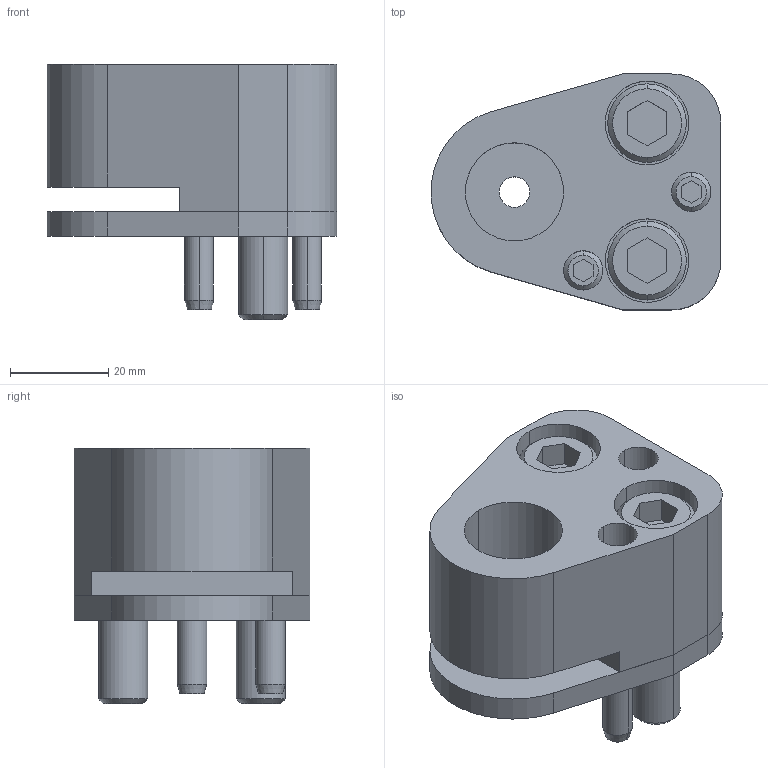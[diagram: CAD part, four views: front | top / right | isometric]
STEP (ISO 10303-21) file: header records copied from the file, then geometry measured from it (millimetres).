
FILE_DESCRIPTION(/* description */ (''),/* implementation_level */ '2;1');
FILE_NAME(/* name */ '3d_dp-fp20_02829_r00.stp',/* time_stamp */ '2011-01-10T14:15:55+09:00',/* author */ ('MISUMI'),/* organization */ (''),/* preprocessor_version */ 'ST-DEVELOPER v11',/* originating_system */ 'UGS - NX 5.0',/* authorisation */ '');
FILE_SCHEMA (('CONFIG_CONTROL_DESIGN'));
Length unit declared in the file: millimetre
Products named in the file (1): 3d_dp-fp20_02829_r00
Bounding box: 58.94 x 48 x 52 mm (x, y, z)
Volume: 66961.2 mm3; surface area: 26186 mm2
Topology: 8 solids, 8 shells, 154 faces, 350 edges, 225 vertices
Faces by surface type: plane 68, cylinder 60, cone 26
Entity records: 4494 total; most frequent: DIRECTION 802, CARTESIAN_POINT 781, ORIENTED_EDGE 700, EDGE_CURVE 350, AXIS2_PLACEMENT_3D 302, VERTEX_POINT 225, LINE 198, VECTOR 198
